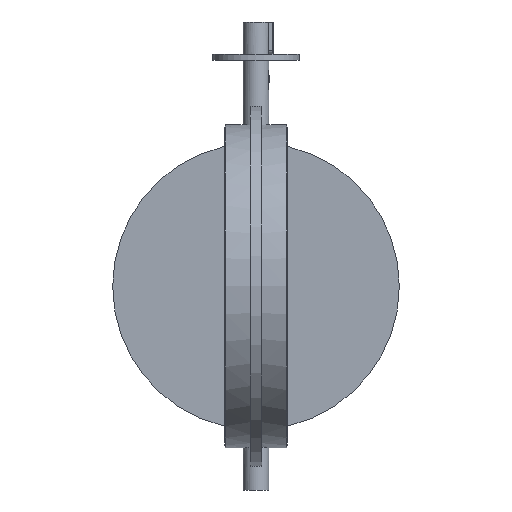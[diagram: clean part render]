
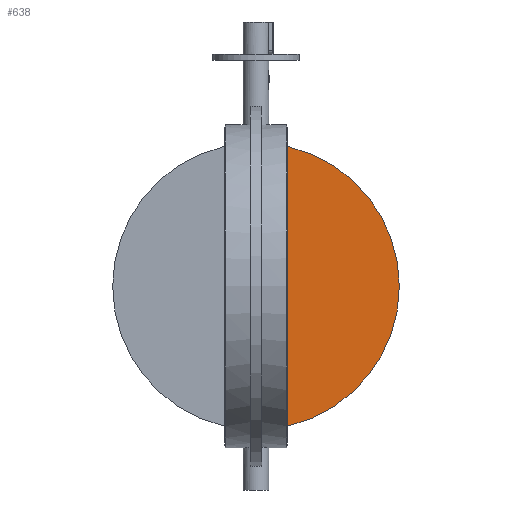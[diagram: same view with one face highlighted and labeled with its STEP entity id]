
A CAD part, front view. The second image highlights one B-rep face of the part: STEP entity #638.
In plain terms, the highlighted planar face has unit normal (0, -1, 0).
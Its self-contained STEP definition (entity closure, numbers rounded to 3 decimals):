
#638=ADVANCED_FACE('',(#1616),#1618,.T.);
#1616=FACE_BOUND('',#1617,.T.);
#1617=EDGE_LOOP('',(#2134,#2135));
#1618=PLANE('',#1619);
#1619=AXIS2_PLACEMENT_3D('',#1620,#1621,#1622);
#1620=CARTESIAN_POINT('',(0.,-10.,0.));
#1621=DIRECTION('',(0.,-1.,0.));
#1622=DIRECTION('',(0.,0.,1.));
#2134=ORIENTED_EDGE('',*,*,#2378,.T.);
#2135=ORIENTED_EDGE('',*,*,#2410,.T.);
#2378=EDGE_CURVE('',#2686,#2683,#2687,.T.);
#2410=EDGE_CURVE('',#2683,#2686,#2748,.T.);
#2683=VERTEX_POINT('',#4015);
#2686=VERTEX_POINT('',#4052);
#2687=LINE('',#4053,#4054);
#2748=CIRCLE('',#4292,580.3);
#4015=CARTESIAN_POINT('',(41.307,-10.,-578.828));
#4052=CARTESIAN_POINT('',(41.307,-10.,578.828));
#4053=CARTESIAN_POINT('',(41.307,-10.,578.828));
#4054=VECTOR('',#4055,1.);
#4055=DIRECTION('',(0.,0.,-1.));
#4292=AXIS2_PLACEMENT_3D('',#4293,#4294,#4295);
#4293=CARTESIAN_POINT('',(0.,-10.,0.));
#4294=DIRECTION('',(0.,-1.,0.));
#4295=DIRECTION('',(0.071,0.,-0.997));
